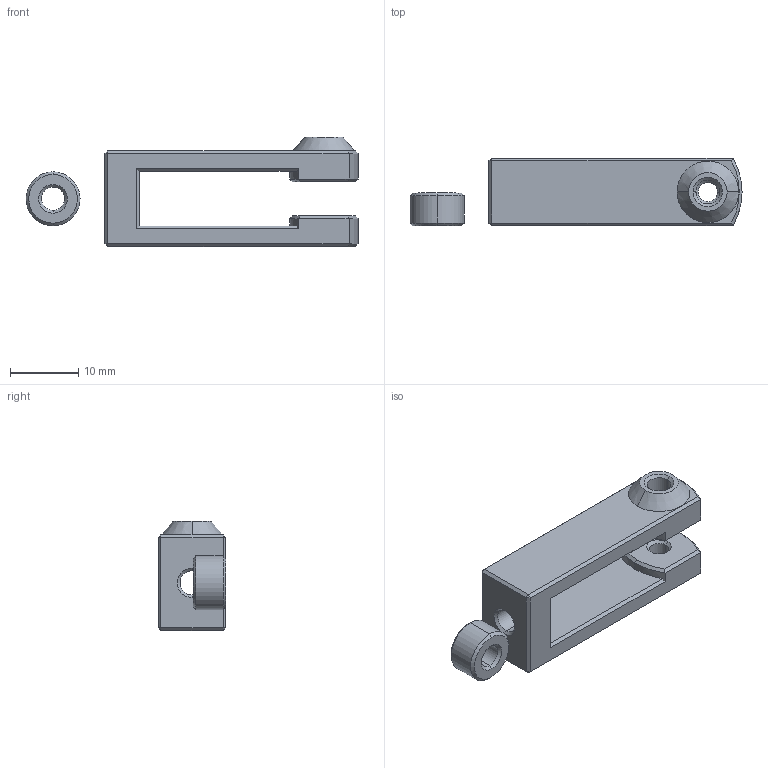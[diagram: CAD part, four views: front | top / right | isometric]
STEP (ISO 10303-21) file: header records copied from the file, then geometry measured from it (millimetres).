
FILE_DESCRIPTION (( 'STEP AP203' ), '1' );
FILE_NAME ('feeder_yoke_with_spacer.STEP', '2014-11-19T22:45:17', ( 'Robban' ), ( '' ), 'SwSTEP 2.0', 'SolidWorks 2013', '' );
FILE_SCHEMA (( 'CONFIG_CONTROL_DESIGN' ));
Length unit declared in the file: millimetre
Products named in the file (1): feeder_yoke_with_spacer
Bounding box: 48.55 x 9.9 x 16 mm (x, y, z)
Volume: 2937.4 mm3; surface area: 2509.1 mm2
Topology: 2 solids, 2 shells, 81 faces, 179 edges, 103 vertices
Faces by surface type: plane 35, cone 31, cylinder 15
Entity records: 2289 total; most frequent: CARTESIAN_POINT 412, DIRECTION 392, ORIENTED_EDGE 358, EDGE_CURVE 179, AXIS2_PLACEMENT_3D 147, VERTEX_POINT 103, VECTOR 98, LINE 98
